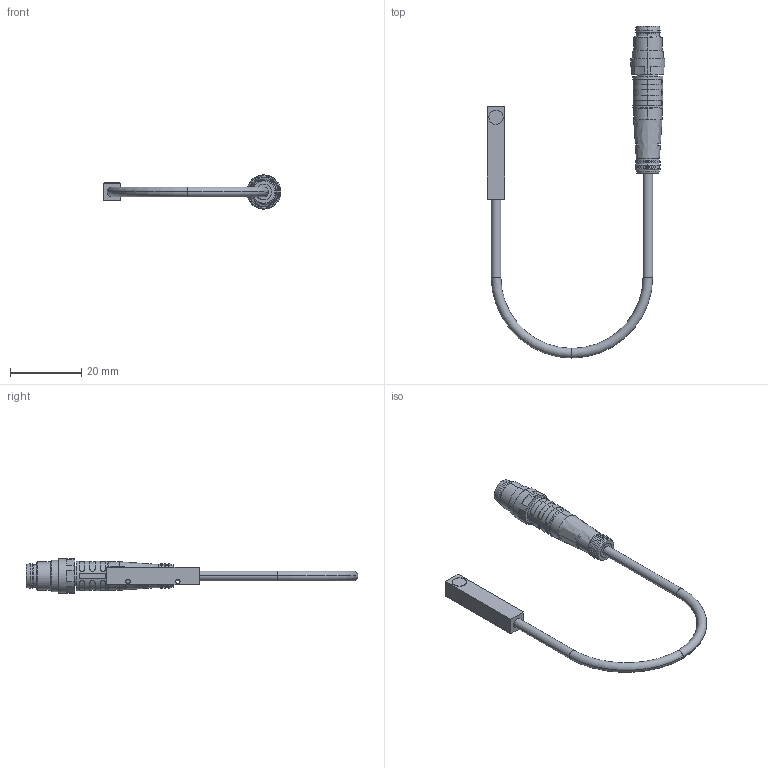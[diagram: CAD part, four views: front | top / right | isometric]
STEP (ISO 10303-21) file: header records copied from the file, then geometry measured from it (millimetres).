
FILE_DESCRIPTION(('STEP AP214'),'1');
FILE_NAME('Z:/3D-Daten INIS/tmp1.STEP','2021-01-14T12:15:48',(' '),(' '),'Spatial InterOp 3D',' ',' ');
FILE_SCHEMA(('automotive_design'));
Length unit declared in the file: millimetre
Products named in the file (1): 1
Bounding box: 50.02 x 93.4 x 9.6 mm (x, y, z)
Volume: 3187.9 mm3; surface area: 3022.1 mm2
Topology: 1 solids, 1 shells, 426 faces, 961 edges, 545 vertices
Faces by surface type: cylinder 200, cone 140, plane 61, torus 20, sphere 3, bspline 2
Entity records: 16786 total; most frequent: CARTESIAN_POINT 3769, DIRECTION 2176, ORIENTED_EDGE 1910, EDGE_CURVE 955, AXIS2_PLACEMENT_3D 876, VERTEX_POINT 545, CIRCLE 451, EDGE_LOOP 444
